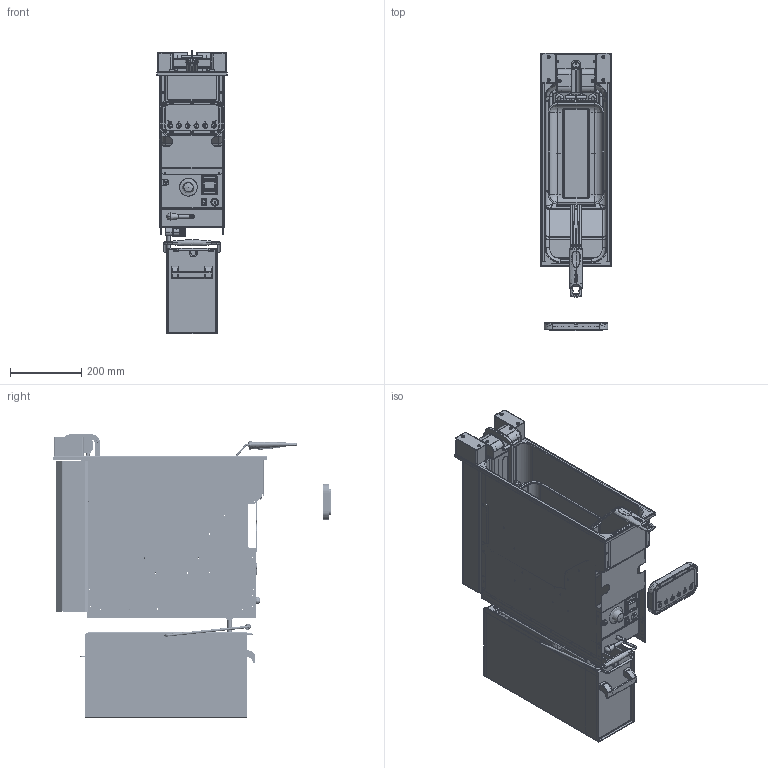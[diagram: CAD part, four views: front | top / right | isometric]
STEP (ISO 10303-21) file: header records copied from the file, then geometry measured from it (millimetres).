
FILE_DESCRIPTION(/* description */ (''),/* implementation_level */ '2;1');
FILE_NAME(/* name */ 'CORE SMART 200 E',/* time_stamp */ '2025-10-22T13:24:44+02:00',/* author */ (''),/* organization */ (''),/* preprocessor_version */ 'ST-DEVELOPER v19.2',/* originating_system */ 'Rhino 8.23',/* authorisation */ '');
FILE_SCHEMA (('CONFIG_CONTROL_DESIGN'));
Products named in the file (1): Document
Bounding box: 199 x 778.5 x 795.9 mm (x, y, z)
Volume: 2754828.2 mm3; surface area: 4501648.8 mm2
Topology: 85 solids, 110 shells, 5093 faces, 13158 edges, 8291 vertices
Faces by surface type: plane 1855, cylinder 1813, bspline 1425
Full cylindrical faces by diameter (mm): 27 x1
Entity records: 261677 total; most frequent: CARTESIAN_POINT 156050, ORIENTED_EDGE 26005, EDGE_CURVE 13118, DIRECTION 12526, VERTEX_POINT 8288, B_SPLINE_CURVE_WITH_KNOTS 8103, AXIS2_PLACEMENT_3D 8097, EDGE_LOOP 5619
